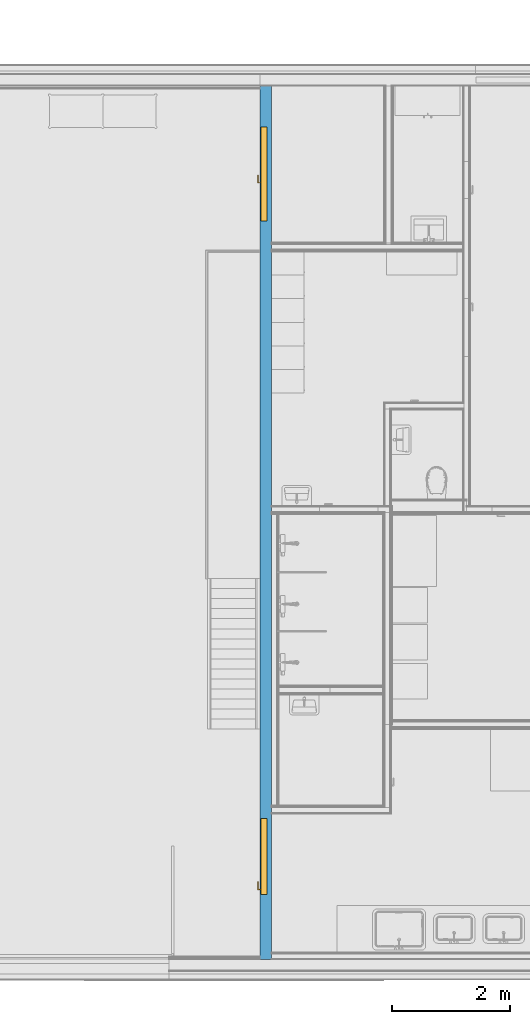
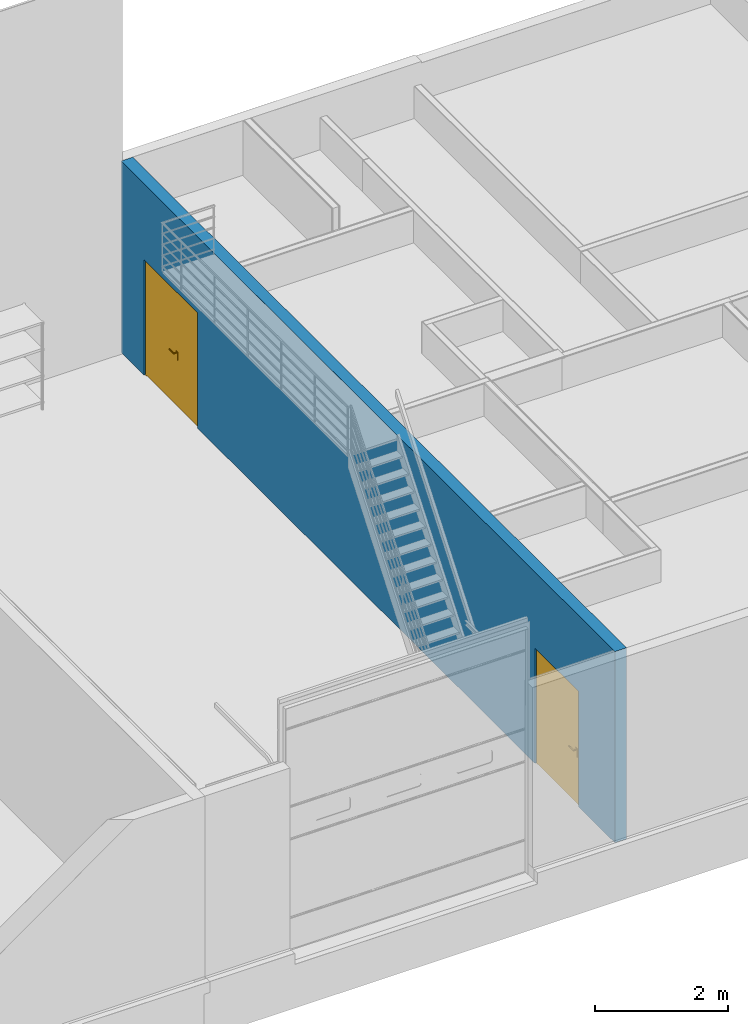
# One storey, part 12 of 67: 2 doors, 1 building element part, 2 openings, 1 element without a shape of its own.
"""IFC4 building model written with IfcOpenShell, lengths in millimetres."""

from ifc_helpers import new_model, entity, si_unit, converted_unit, direction, frame, origin, place, context, subcontext, project, spatial, indexed_curve, outline, extrude, polygons, source, transform, mapped, material, constituent, constituent_set, type_object, type_shapes, element, fill, aggregate, save


model = new_model("IFC4")

# Units and contexts
model_context = context("Model", 3, precision=0.01, world=origin(), true_north=direction((0.0, 1.0)))
body_context = subcontext(model_context, "Body", "Model", "MODEL_VIEW")
ifc_project = project(units=[si_unit("LENGTHUNIT", "METRE", prefix="MILLI"), si_unit("AREAUNIT", "SQUARE_METRE"), si_unit("VOLUMEUNIT", "CUBIC_METRE"), converted_unit("PLANEANGLEUNIT", "DEGREE", entity("IfcPlaneAngleMeasure", 0.017453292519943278), si_unit("PLANEANGLEUNIT", "RADIAN"), dimensions=[0, 0, 0, 0, 0, 0, 0])], contexts=[model_context])

# Site, building, storey
site_placement = place(None, origin())
site = spatial("IfcSite", under=ifc_project, at=site_placement, Name="Tomtens navn", CompositionType="ELEMENT")
building_placement = place(site_placement, origin())
building = spatial("IfcBuilding", under=site, at=building_placement, Name="Byggets navn", CompositionType="ELEMENT")
storey_placement = place(building_placement, origin())
storey = spatial("IfcBuildingStorey", under=building, at=storey_placement, Name="Level 01", CompositionType="ELEMENT", Elevation=2.1993652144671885e-25)

# Door
ifc_material_1 = material(Name="Rustfritt Stål", Category="Metal")
ifc_constituent_1 = constituent(ifc_material_1, Name="Rustfritt Stål", Category="Metal", fraction=0.0014191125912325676)
ifc_material_2 = material(Name="Hvit", Category="Paint")
ifc_constituent_2 = constituent(ifc_material_2, Name="Hvit", Category="Paint", fraction=0.9985808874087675)
ifc_constituent_set_1 = constituent_set(constituents=[ifc_constituent_1, ifc_constituent_2])
ifc_constituent_3 = constituent(ifc_material_1, Name="Rustfritt Stål", Category="Metal", fraction=0.0007100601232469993)
ifc_constituent_4 = constituent(ifc_material_2, Name="Panel", Category="Paint", fraction=0.4996449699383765)
ifc_constituent_5 = constituent(ifc_material_2, Name="Frame/Mullion", Category="Paint", fraction=0.4996449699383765)
ifc_constituent_set_2 = constituent_set(constituents=[ifc_constituent_3, ifc_constituent_4, ifc_constituent_5])
door_type_1 = type_object("IfcDoorType", Name="Enfløyet:ID09 ståldør 13x21M EI30 2", OperationType="SINGLE_SWING_RIGHT", PredefinedType="DOOR", material=ifc_constituent_set_2)
shared_shape_1 = source(origin(), body_context, "Body", "SweptSolid", [
    extrude(outline(indexed_curve([(-50.83333333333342, -33.3333333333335), (-35.83333333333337, -33.33333333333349), (-35.833333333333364, 9.16666666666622), (86.66666666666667, 9.166666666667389), (86.6666666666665, 24.166666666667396), (-50.833333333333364, 24.16666666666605), (-50.83333333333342, -33.3333333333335)], self_intersect=False)), frame((141.33333333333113, 218.9410394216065, 980.5000000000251)), (0.0, 0.0, 1.0), 14.999999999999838),
    extrude(outline(indexed_curve([(-24.999999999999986, -2.7999999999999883), (25.000000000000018, -2.8000000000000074), (24.999999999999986, 2.7999999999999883), (-24.99999999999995, 2.800000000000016), (-24.999999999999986, -2.7999999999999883)], self_intersect=False)), frame((98.0, 182.8000000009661, 850.9862950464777), z_axis=(0.0, 0.0, 1.0), x_axis=(-1.0, 0.0, 0.0)), (0.0, 0.0, 1.0), 159.01370495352),
    extrude(outline(indexed_curve([(-33.33333333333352, -50.83333333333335), (24.166666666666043, -50.83333333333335), (24.166666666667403, 86.66666666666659), (9.166666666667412, 86.6666666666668), (9.166666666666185, -35.83333333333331), (-33.33333333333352, -35.83333333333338), (-33.33333333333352, -50.83333333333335)], self_intersect=False)), frame((141.33333333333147, 101.05896058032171, 980.5000000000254), z_axis=(0.0, 0.0, 1.0), x_axis=(0.0, -1.0, 0.0)), (0.0, 0.0, 1.0), 14.999999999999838),
    extrude(outline(indexed_curve([(-2.799999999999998, -25.00000000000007), (2.800000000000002, -25.00000000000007), (2.800000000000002, 25.0), (-2.799999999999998, 24.999999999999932), (-2.799999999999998, -25.00000000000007)], self_intersect=False)), frame((98.0, 137.2000000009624, 850.9862950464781), z_axis=(0.0, 0.0, 1.0), x_axis=(0.0, 1.0, 0.0)), (0.0, 0.0, 1.0), 159.01370495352),
    extrude(outline(indexed_curve([(-19.999999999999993, -606.9999999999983), (20.000000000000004, -606.9999999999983), (20.000000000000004, 606.9999999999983), (-19.999999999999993, 606.9999999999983), (-19.999999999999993, -606.9999999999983)], self_intersect=False)), frame((655.0, 160.0, 10.0), z_axis=(0.0, 0.0, 1.0), x_axis=(0.0, 1.0, 0.0)), (0.0, 0.0, 1.0), 2042.0),
    extrude(outline(indexed_curve([(-1035.5000000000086, -644.9999999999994), (1054.5000000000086, -644.9999999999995), (1054.5000000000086, 644.9999999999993), (-1035.5000000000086, 644.9999999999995), (-1035.5000000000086, 606.9999999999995), (1016.5000000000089, 606.9999999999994), (1016.5000000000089, -606.9999999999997), (-1035.5000000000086, -606.9999999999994), (-1035.5000000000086, -644.9999999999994)], self_intersect=False)), frame((655.0, 80.0, 1035.5000000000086), z_axis=(0.0, 1.0, 0.0), x_axis=(0.0, 0.0, 1.0)), (0.0, 0.0, 1.0), 99.99999999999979),
])
type_shapes(door_type_1, [shared_shape_1])
wall_placement = place(storey_placement, frame((58522.85352810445, 22861.466456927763, 0.0), z_axis=(0.0, 0.0, 1.0), x_axis=(0.0, -1.0, 0.0)))
opening_1_placement = place(wall_placement, frame((13715.0, 100.0, 0.0)))
door_1_placement = place(opening_1_placement, frame((0.0, 0.0, 0.0), z_axis=(0.0, 0.0, 1.0), x_axis=(-1.0, 0.0, 0.0)))
door_1 = element("IfcDoor", 1, at=door_1_placement, inside=storey, type_object=door_type_1, material=ifc_constituent_set_1, Name="Enfløyet:ID09 ståldør 13x21M EI30 2", OverallHeight=2110.000000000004, OverallWidth=1309.9999999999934, PredefinedType="DOOR", context=body_context, shape_type="MappedRepresentation", body=[
    mapped(shared_shape_1, transform((0.0, 0.0, 0.0), scale=1.0)),
])

ifc_constituent_6 = constituent(ifc_material_2, Name="Hvit", Category="Paint", fraction=0.9988255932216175)
ifc_constituent_7 = constituent(ifc_material_1, Name="Rustfritt Stål", Category="Metal", fraction=0.0011744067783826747)
ifc_constituent_set_3 = constituent_set(constituents=[ifc_constituent_6, ifc_constituent_7])
ifc_constituent_8 = constituent(ifc_material_2, Name="Frame/Mullion", Category="Paint", fraction=0.4997062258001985)
ifc_constituent_9 = constituent(ifc_material_1, Name="Rustfritt Stål", Category="Metal", fraction=0.0005875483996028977)
ifc_constituent_10 = constituent(ifc_material_2, Name="Panel", Category="Paint", fraction=0.4997062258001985)
ifc_constituent_set_4 = constituent_set(constituents=[ifc_constituent_8, ifc_constituent_9, ifc_constituent_10])
door_type_2 = type_object("IfcDoorType", Name="Tofløyet:ID12 Stålsdør 16x21M EI30Sa", OperationType="DOUBLE_DOOR_SINGLE_SWING", PredefinedType="DOOR", material=ifc_constituent_set_4)
shared_shape_2 = source(origin(), body_context, "Body", "SweptSolid", [
    extrude(outline(indexed_curve([(-279.49999999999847, -19.999999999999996), (279.49999999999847, -19.999999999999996), (279.49999999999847, 19.999999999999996), (-279.49999999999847, 19.999999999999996), (-279.49999999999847, -19.999999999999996)], self_intersect=False)), frame((325.5000000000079, 160.0, 10.0)), (0.0, 0.0, 1.0), 2044.0000000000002),
    extrude(outline(indexed_curve([(-50.83333333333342, -33.3333333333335), (-35.83333333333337, -33.333333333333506), (-35.833333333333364, 9.166666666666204), (86.66666666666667, 9.166666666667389), (86.6666666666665, 24.166666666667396), (-50.833333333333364, 24.16666666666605), (-50.83333333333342, -33.3333333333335)], self_intersect=False)), frame((698.3333333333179, 218.9410394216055, 980.5000000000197)), (0.0, 0.0, 1.0), 14.999999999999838),
    extrude(outline(indexed_curve([(-24.99999999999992, -2.7999999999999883), (25.000000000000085, -2.8000000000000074), (25.000000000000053, 2.7999999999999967), (-24.999999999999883, 2.8000000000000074), (-24.99999999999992, -2.7999999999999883)], self_intersect=False)), frame((655.0, 182.80000000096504, 850.9862950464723), z_axis=(0.0, 0.0, 1.0), x_axis=(-1.0, 0.0, 0.0)), (0.0, 0.0, 1.0), 159.01370495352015),
    extrude(outline(indexed_curve([(-33.33333333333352, -50.83333333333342), (24.166666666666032, -50.83333333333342), (24.166666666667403, 86.66666666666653), (9.166666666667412, 86.66666666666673), (9.166666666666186, -35.83333333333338), (-33.33333333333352, -35.83333333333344), (-33.33333333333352, -50.83333333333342)], self_intersect=False)), frame((698.3333333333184, 101.05896058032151, 980.5000000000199), z_axis=(0.0, 0.0, 1.0), x_axis=(0.0, -1.0, 0.0)), (0.0, 0.0, 1.0), 14.999999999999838),
    extrude(outline(indexed_curve([(-2.799999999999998, -25.00000000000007), (2.800000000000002, -25.00000000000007), (2.800000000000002, 25.0), (-2.799999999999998, 24.999999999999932), (-2.799999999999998, -25.00000000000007)], self_intersect=False)), frame((655.0, 137.2000000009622, 850.9862950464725), z_axis=(0.0, 0.0, 1.0), x_axis=(0.0, 1.0, 0.0)), (0.0, 0.0, 1.0), 159.01370495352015),
    extrude(outline(indexed_curve([(-19.999999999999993, -479.4999999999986), (20.000000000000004, -479.4999999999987), (20.000000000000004, 479.4999999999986), (-19.999999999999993, 479.4999999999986), (-19.999999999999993, -479.4999999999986)], self_intersect=False)), frame((1084.4999999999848, 160.0, 10.0), z_axis=(0.0, 0.0, 1.0), x_axis=(0.0, 1.0, 0.0)), (0.0, 0.0, 1.0), 2044.0000000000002),
    extrude(outline(indexed_curve([(-1035.9999999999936, -794.9999999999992), (1053.9999999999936, -794.9999999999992), (1053.9999999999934, 794.9999999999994), (-1035.9999999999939, 794.9999999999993), (-1035.9999999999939, 759.0000000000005), (1017.9999999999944, 759.0000000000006), (1017.9999999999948, -759.0000000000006), (-1035.9999999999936, -759.0000000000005), (-1035.9999999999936, -794.9999999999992)], self_intersect=False)), frame((805.0, 80.0, 1036.0), z_axis=(0.0, 1.0, 0.0), x_axis=(0.0, 0.0, 1.0)), (0.0, 0.0, 1.0), 99.99999999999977),
])
type_shapes(door_type_2, [shared_shape_2])
opening_2_placement = place(wall_placement, frame((2296.0, 100.0, 0.0)))
door_2_placement = place(opening_2_placement, frame((0.0, 0.0, 0.0), z_axis=(0.0, 0.0, 1.0), x_axis=(-1.0, 0.0, 0.0)))
door_2 = element("IfcDoor", 2, at=door_2_placement, inside=storey, type_object=door_type_2, material=ifc_constituent_set_3, Name="Tofløyet:ID12 Stålsdør 16x21M EI30Sa", OverallHeight=2109.999999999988, OverallWidth=1610.0000000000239, PredefinedType="DOOR", context=body_context, shape_type="MappedRepresentation", body=[
    mapped(shared_shape_2, transform((0.0, 0.0, 0.0), scale=1.0)),
])

# Wall, opening
wall_type = type_object("IfcWallType", Name="Basic Wall:IV21 Betong 200", PredefinedType="STANDARD")
wall = element("IfcWall", 3, at=wall_placement, inside=storey, type_object=wall_type, Name="Basic Wall:IV21 Betong 200", PredefinedType="NOTDEFINED")
opening_1 = element("IfcOpeningElement", 4, at=opening_1_placement, cuts=wall, Name="Enfløyet:ID09 ståldør 13x21M EI30 2:1", PredefinedType="OPENING", context=body_context, shape_type="SweptSolid", body=[
    extrude(outline(indexed_curve([(0.0, 1309.9999999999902), (0.0, 0.0), (2110.000000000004, 0.0), (2110.000000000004, 1309.9999999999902), (0.0, 1309.9999999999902)], self_intersect=False)), frame((0.0, 0.0, 0.0), z_axis=(0.0, -1.0, 0.0), x_axis=(0.0, 0.0, 1.0)), (0.0, 0.0, 1.0), 200.0),
])

fill(opening_1, door_1)

# Opening
opening_2 = element("IfcOpeningElement", 5, at=opening_2_placement, cuts=wall, Name="Tofløyet:ID12 Stålsdør 16x21M EI30Sa:1", PredefinedType="OPENING", context=body_context, shape_type="SweptSolid", body=[
    extrude(outline(indexed_curve([(0.0, 1610.0000000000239), (0.0, 0.0), (2109.999999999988, 0.0), (2109.999999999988, 1610.0000000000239), (0.0, 1610.0000000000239)], self_intersect=False)), frame((0.0, 0.0, 0.0), z_axis=(0.0, -1.0, 0.0), x_axis=(0.0, 0.0, 1.0)), (0.0, 0.0, 1.0), 200.0),
])

fill(opening_2, door_2)

# Building element part
ifc_material_3 = material(Name="NO_Betong - Plasstøpt", Category="Betong")
building_element_part_placement = place(wall_placement, frame((14802.0, -100.0, 0.0)))
building_element_part = element("IfcBuildingElementPart", 6, at=building_element_part_placement, material=ifc_material_3, Name="NO_Betong - Plasstøpt", context=body_context, shape_type="Tessellation", body=[
    polygons([(-14802.000000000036, -1.897560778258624e-11, 2.1993652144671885e-25), (-14802.00000000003, -1.16996501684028e-11, 199.99999999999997), (-14801.999999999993, -1.8975607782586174e-11, 3499.999999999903), (-14801.999999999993, 199.9999999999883, 3499.999999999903), (-14802.000000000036, 199.9999999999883, 200.0000000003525), (-14802.000000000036, 199.9999999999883, 2.1993652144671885e-25), (-14755.999999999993, -1.1632188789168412e-11, 2.1993652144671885e-25), (-14116.0, 199.9999999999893, 2.1993652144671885e-25), (-14116.000000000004, -1.79695533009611e-11, 2.1993652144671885e-25), (-14116.000000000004, -1.0693595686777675e-11, 200.0000000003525), (-14116.000000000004, 199.9999999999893, 200.00000000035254), (-14116.0, 199.9999999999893, 2109.999999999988), (-14116.000000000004, -1.79695533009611e-11, 2109.999999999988), (-12505.999999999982, -1.560840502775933e-11, 2.1993652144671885e-25), (-12505.999999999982, -8.332447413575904e-12, 200.00000000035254), (-12505.999999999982, -1.560840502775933e-11, 2109.999999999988), (-12505.999999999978, 199.99999999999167, 2109.999999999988), (-12505.999999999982, 199.99999999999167, 200.0000000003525), (-12505.999999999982, 199.99999999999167, 2.1993652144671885e-25), (-2396.9999999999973, -8.058991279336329e-12, 2.1993652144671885e-25), (-12141.999999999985, 199.9999999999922, 2.1993652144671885e-25), (-11994.999999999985, 199.9999999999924, 2.1993652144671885e-25), (-7680.499999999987, 199.99999999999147, 2.1993652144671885e-25), (-7546.499999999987, 199.99999999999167, 2.1993652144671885e-25), (-2600.9999999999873, 199.99999999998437, 2.1993652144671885e-25), (-2466.9999999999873, 199.99999999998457, 2.1993652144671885e-25), (-2396.999999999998, 199.99999999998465, 2.1993652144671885e-25), (-2396.9999999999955, -8.058991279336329e-12, 200.0000000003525), (-2396.999999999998, 199.99999999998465, 200.00000000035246), (-2396.999999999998, 199.99999999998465, 2110.000000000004), (-2396.9999999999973, -8.058991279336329e-12, 2110.000000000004), (-1087.0000000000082, -6.137808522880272e-12, 2.1993652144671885e-25), (-1087.0000000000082, -6.137808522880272e-12, 200.00000000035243), (-1087.0000000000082, -6.137808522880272e-12, 2110.000000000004), (-1087.000000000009, 199.99999999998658, 2110.000000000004), (-1087.000000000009, 199.99999999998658, 200.0000000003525), (-1087.000000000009, 199.99999999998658, 2.1993652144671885e-25), (-47.99999999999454, -4.614061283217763e-12, 2.1993652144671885e-25), (-113.99999999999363, 199.999999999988, 2.1993652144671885e-25), (-3.999999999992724, 199.99999999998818, 2.1993652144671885e-25), (-1.9999999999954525, 199.99999999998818, 2.1993652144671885e-25), (-1.9999999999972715, -4.546599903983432e-12, 2.1993652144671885e-25), (-1.999999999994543, -4.546599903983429e-12, 200.0000000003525), (-1.9999999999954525, 199.99999999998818, 200.00000000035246), (4.547473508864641e-12, 199.99999999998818, 3499.999999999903), (4.547473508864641e-12, 199.99999999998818, 200.0000000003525), (5.4569682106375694e-12, -4.543666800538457e-12, 200.0000000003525), (-47.99999999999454, -4.614061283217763e-12, 3499.999999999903), (5.4569682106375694e-12, -4.543666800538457e-12, 3499.999999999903)], [[[1, 2, 3, 4, 5, 6]], [[7, 1, 6, 8, 9]], [[10, 9, 8, 11, 12, 13]], [[14, 15, 16, 17, 18, 19]], [[20, 14, 19, 21, 22, 23, 24, 25, 26, 27]], [[28, 20, 27, 29, 30, 31]], [[32, 33, 34, 35, 36, 37]], [[38, 32, 37, 39, 40, 41, 42]], [[43, 42, 41, 44]], [[44, 41, 40, 39, 37, 36, 35, 30, 29, 27, 26, 25, 24, 23, 22, 21, 19, 18, 17, 12, 11, 8, 6, 5, 4, 45, 46]], [[46, 47, 43, 44]], [[48, 49, 45, 4, 3]], [[16, 13, 12, 17]], [[34, 31, 30, 35]], [[47, 46, 45, 49]], [[33, 32, 38, 42, 43, 47, 49, 48, 3, 2, 1, 7, 9, 10, 13, 16, 15, 14, 20, 28, 31, 34]]], closed=True),
])

aggregate(wall, [building_element_part])

save(model, "model.ifc")
